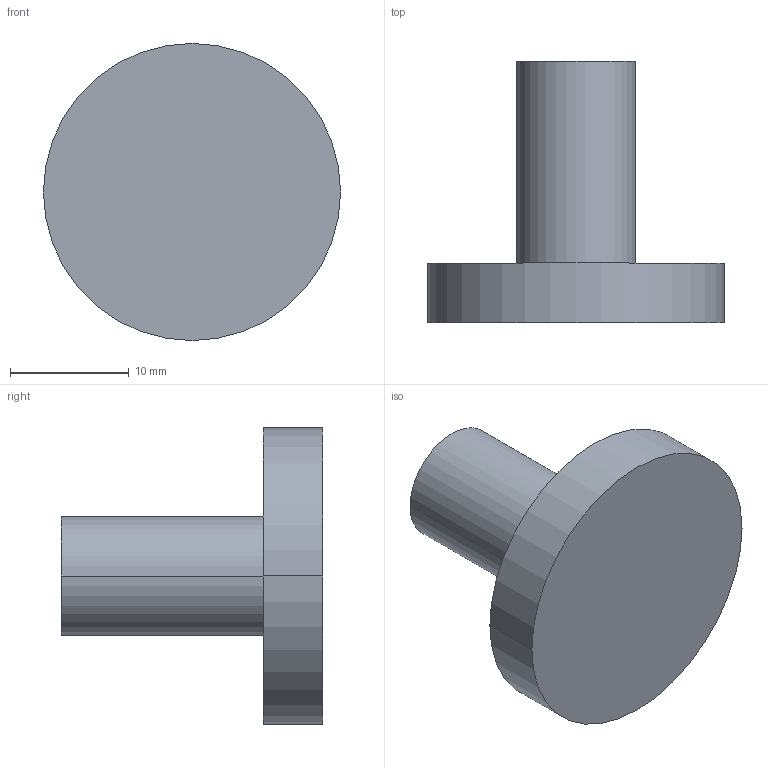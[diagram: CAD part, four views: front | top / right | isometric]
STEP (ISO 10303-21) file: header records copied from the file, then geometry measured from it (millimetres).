
FILE_DESCRIPTION( ( '' ), '1' );
FILE_NAME( 'C:/Documents and Settings/Nikhil/Desktop/Nik/Done/9070568.stp', '2013-10-23T10:32:44', ( '' ), ( '' ), ' ', ' ', ' ' );
FILE_SCHEMA( ( 'automotive_design' ) );
Length unit declared in the file: millimetre
Products named in the file (1): 1
Bounding box: 25 x 22 x 25 mm (x, y, z)
Volume: 3632.5 mm3; surface area: 2034.2 mm2
Topology: 1 solids, 1 shells, 10 faces, 18 edges, 12 vertices
Faces by surface type: cylinder 6, plane 4
Entity records: 508 total; most frequent: DIRECTION 52, STYLED_ITEM 41, PRESENTATION_STYLE_ASSIGNMENT 41, CARTESIAN_POINT 41, COLOUR_RGB 41, ORIENTED_EDGE 36, AXIS2_PLACEMENT_3D 23, EDGE_CURVE 18
